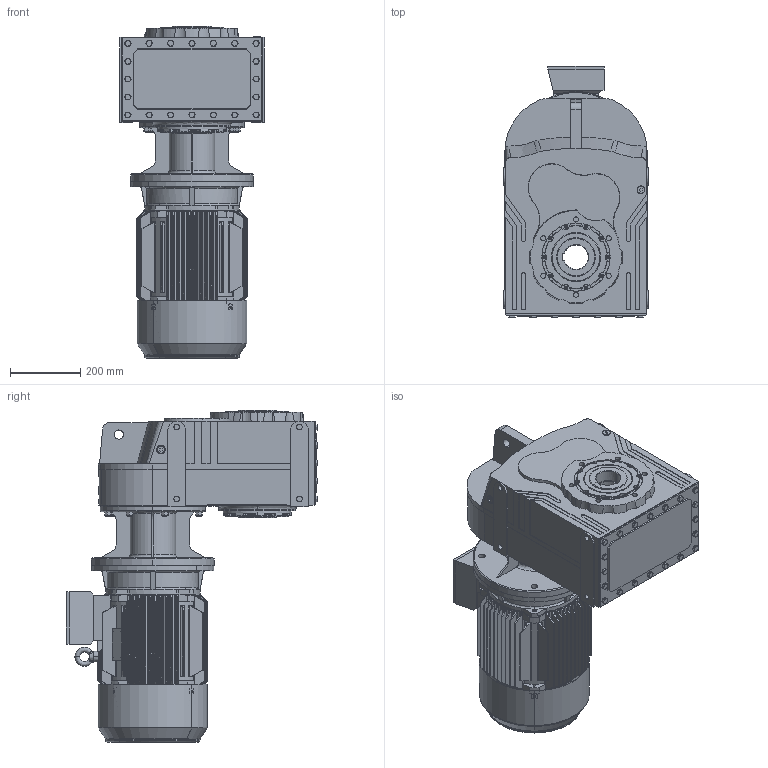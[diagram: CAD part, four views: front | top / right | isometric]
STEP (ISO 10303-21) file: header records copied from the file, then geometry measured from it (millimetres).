
FILE_DESCRIPTION (( 'STEP AP203' ), '1' );
FILE_NAME ('DV672-DV673-M3-160M.STEP', '2019-07-23T13:44:35', ( '' ), ( '' ), 'SwSTEP 2.0', 'SolidWorks 2012', '' );
FILE_SCHEMA (( 'CONFIG_CONTROL_DESIGN' ));
Products named in the file (15): DV672-DV673-M3-160M; M3-160M-FF-B5; Y2-160_shaft; Y2-160-180ñ»ª­®+_-++ñ; +ª+§ªiY2-160ñ»ª­_-++ñ; Y2-160M+À+¿(B5)_-++ñ; Y2-160ñ»ª­+¿_-++ñ; +¦i-MN2-160_-++ñ; Y2-160-4Ý¾6Ý¾8-ª+---®+_-++ñ; Y2-160-2ª¥--®+_-++ñ; ML60A_Varsayìlan; 53160B5_Varsayìlan; Eyebolts GB_GB_FASTENER_SCREWS_FRS M12; DN_67_3_0_A-B16_B5_ML60A_0_0_0_0_0_0_0_0_0_0_0_0_M1; D673_Varsayìlan
Assembly tree (14 placements, depth 4):
  DV672-DV673-M3-160M
    DN_67_3_0_A-B16_B5_ML60A_0_0_0_0_0_0_0_0_0_0_0_0_M1
      D673_Varsayìlan
      53160B5_Varsayìlan
      ML60A_Varsayìlan
    M3-160M-FF-B5
      Eyebolts GB_GB_FASTENER_SCREWS_FRS M12
      Y2-160-4Ý¾6Ý¾8-ª+---®+_-++ñ
      +¦i-MN2-160_-++ñ
      Y2-160-2ª¥--®+_-++ñ
      +ª+§ªiY2-160ñ»ª­_-++ñ
        Y2-160-180ñ»ª­®+_-++ñ
        Y2-160ñ»ª­+¿_-++ñ
      Y2-160M+À+¿(B5)_-++ñ
      Y2-160_shaft
Bounding box: 412 x 717.4 x 947 mm (x, y, z)
Volume: 65544848.6 mm3; surface area: 4178012.2 mm2
Topology: 15 solids, 15 shells, 2889 faces, 7577 edges, 4811 vertices
Faces by surface type: plane 1171, cylinder 971, cone 444, bspline 196, torus 67, sphere 40
Entity records: 128375 total; most frequent: CARTESIAN_POINT 59108, ORIENTED_EDGE 14910, DIRECTION 12934, EDGE_CURVE 7455, AXIS2_PLACEMENT_3D 4821, VERTEX_POINT 4778, LINE 3292, VECTOR 3292
